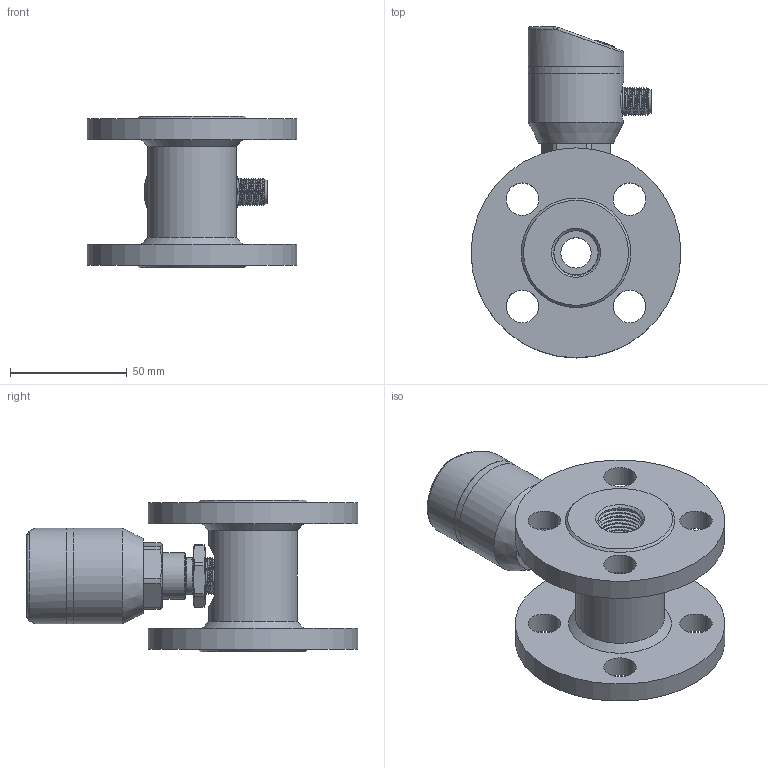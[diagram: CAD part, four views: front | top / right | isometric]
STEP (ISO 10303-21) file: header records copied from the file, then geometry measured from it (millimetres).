
FILE_DESCRIPTION( (''), '2;1');
FILE_NAME( 'QTKA_DN12_flange.step', '2024-01-11T13:35:15+08:00', (''), (''), '', '', '');
FILE_SCHEMA (('AUTOMOTIVE_DESIGN { 1 0 10303 214 3 1 1 1 }'));
Length unit declared in the file: millimetre
Products named in the file (1): QTKA DN12_flange
Bounding box: 90 x 142.3 x 65 mm (x, y, z)
Volume: 176796.4 mm3; surface area: 64168.9 mm2
Topology: 5 solids, 7 shells, 455 faces, 1098 edges, 699 vertices
Faces by surface type: plane 157, cylinder 152, cone 55, bspline 46, torus 39, sphere 6
Full cylindrical faces by diameter (mm): 1 x5, 2.7 x4, 8.4 x1, 9.7 x1, 9.8 x1, 10.1 x1, 11.6 x1, 12 x1, 13 x1, 14 x8, 15.9 x1, 17 x1, 20 x1, 21 x2, 23 x3, 26 x4, 26.1 x1, 37 x1, 38 x1, 41 x3, 90 x2
Entity records: 33549 total; most frequent: CARTESIAN_POINT 22140, DIRECTION 2003, ORIENTED_EDGE 1970, EDGE_CURVE 985, AXIS2_PLACEMENT_3D 811, VERTEX_POINT 656, EDGE_LOOP 589, ADVANCED_FACE 453
